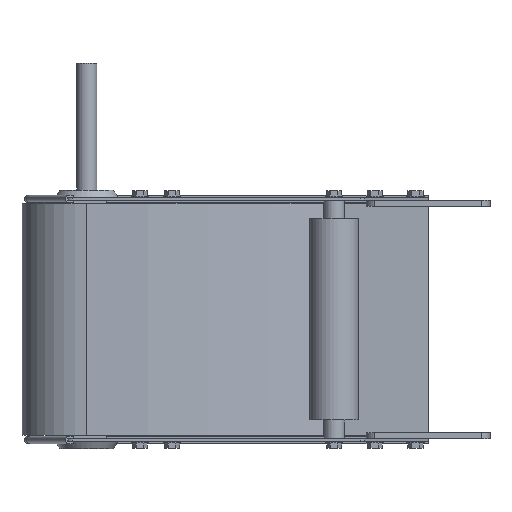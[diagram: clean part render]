
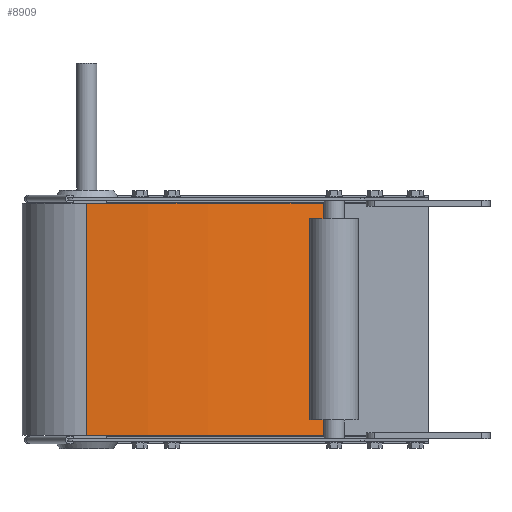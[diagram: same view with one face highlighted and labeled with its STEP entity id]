
A CAD part, front view. The second image highlights one B-rep face of the part: STEP entity #8909.
In plain terms, the highlighted cylindrical face has radius 508.8 mm (diameter 1017.6 mm), a partial arc.
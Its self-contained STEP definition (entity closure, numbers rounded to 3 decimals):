
#593 = CARTESIAN_POINT ( 'NONE',  ( 63.571, -127.4, -114.3 ) ) ;
#888 = AXIS2_PLACEMENT_3D ( 'NONE', #5784, #7224, #2724 ) ;
#995 = CARTESIAN_POINT ( 'NONE',  ( 64.602, 381.399, -114.3 ) ) ;
#1038 = CIRCLE ( 'NONE', #888, 508.8 ) ;
#1067 = VECTOR ( 'NONE', #1511, 1000. ) ;
#1511 = DIRECTION ( 'NONE',  ( 0., 0., 1. ) ) ;
#1734 = CYLINDRICAL_SURFACE ( 'NONE', #3870, 508.8 ) ;
#1779 = LINE ( 'NONE', #4789, #1991 ) ;
#1822 = FACE_OUTER_BOUND ( 'NONE', #8019, .T. ) ;
#1991 = VECTOR ( 'NONE', #5477, 1000. ) ;
#2215 = CARTESIAN_POINT ( 'NONE',  ( 63.571, -127.4, 114.3 ) ) ;
#2500 = EDGE_CURVE ( 'NONE', #6090, #4213, #9596, .T. ) ;
#2724 = DIRECTION ( 'NONE',  ( -1., 0., 0. ) ) ;
#2978 = ORIENTED_EDGE ( 'NONE', *, *, #8806, .F. ) ;
#3053 = VERTEX_POINT ( 'NONE', #593 ) ;
#3182 = EDGE_CURVE ( 'NONE', #7843, #4213, #8164, .T. ) ;
#3870 = AXIS2_PLACEMENT_3D ( 'NONE', #995, #9214, #5522 ) ;
#3928 = ORIENTED_EDGE ( 'NONE', *, *, #2500, .F. ) ;
#4213 = VERTEX_POINT ( 'NONE', #6865 ) ;
#4571 = CARTESIAN_POINT ( 'NONE',  ( 296.602, -71.429, -114.3 ) ) ;
#4606 = DIRECTION ( 'NONE',  ( -1., 0., 0. ) ) ;
#4789 = CARTESIAN_POINT ( 'NONE',  ( 63.571, -127.4, -114.3 ) ) ;
#5477 = DIRECTION ( 'NONE',  ( 0., 0., 1. ) ) ;
#5522 = DIRECTION ( 'NONE',  ( 1., 0., 0. ) ) ;
#5784 = CARTESIAN_POINT ( 'NONE',  ( 64.602, 381.399, -114.3 ) ) ;
#6090 = VERTEX_POINT ( 'NONE', #2215 ) ;
#6732 = EDGE_CURVE ( 'NONE', #3053, #7843, #1038, .T. ) ;
#6746 = CARTESIAN_POINT ( 'NONE',  ( 64.602, 381.399, 114.3 ) ) ;
#6865 = CARTESIAN_POINT ( 'NONE',  ( 296.602, -71.429, 114.3 ) ) ;
#6971 = ORIENTED_EDGE ( 'NONE', *, *, #6732, .T. ) ;
#7224 = DIRECTION ( 'NONE',  ( 0., 0., 1. ) ) ;
#7478 = DIRECTION ( 'NONE',  ( 0., 0., 1. ) ) ;
#7577 = AXIS2_PLACEMENT_3D ( 'NONE', #6746, #7478, #4606 ) ;
#7637 = ORIENTED_EDGE ( 'NONE', *, *, #3182, .T. ) ;
#7843 = VERTEX_POINT ( 'NONE', #9242 ) ;
#8019 = EDGE_LOOP ( 'NONE', ( #3928, #2978, #6971, #7637 ) ) ;
#8164 = LINE ( 'NONE', #4571, #1067 ) ;
#8806 = EDGE_CURVE ( 'NONE', #3053, #6090, #1779, .T. ) ;
#8909 = ADVANCED_FACE ( 'NONE', ( #1822 ), #1734, .T. ) ;
#9214 = DIRECTION ( 'NONE',  ( 0., 0., 1. ) ) ;
#9242 = CARTESIAN_POINT ( 'NONE',  ( 296.602, -71.429, -114.3 ) ) ;
#9596 = CIRCLE ( 'NONE', #7577, 508.8 ) ;
